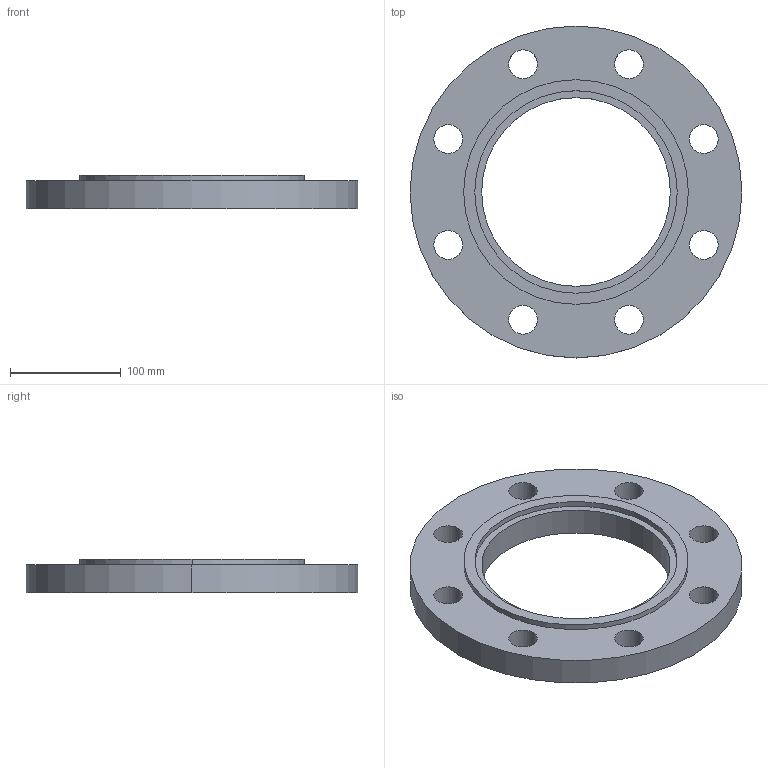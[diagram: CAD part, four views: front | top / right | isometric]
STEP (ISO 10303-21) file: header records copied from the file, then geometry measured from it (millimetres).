
FILE_DESCRIPTION (( 'STEP AP214' ), '1' );
FILE_NAME ('PN40 DN150 Type 01 - Type C Face.STEP', '2019-01-05T00:26:25', ( '' ), ( '' ), 'SwSTEP 2.0', 'SolidWorks 2019', '' );
FILE_SCHEMA (( 'AUTOMOTIVE_DESIGN' ));
Length unit declared in the file: millimetre
Products named in the file (1): PN40 DN150 Type 01 - Type C Face
Bounding box: 300 x 300 x 30 mm (x, y, z)
Volume: 1120483.4 mm3; surface area: 146565.9 mm2
Topology: 1 solids, 1 shells, 28 faces, 72 edges, 48 vertices
Faces by surface type: cylinder 24, plane 4
Entity records: 954 total; most frequent: DIRECTION 178, CARTESIAN_POINT 149, ORIENTED_EDGE 144, AXIS2_PLACEMENT_3D 77, EDGE_CURVE 72, EDGE_LOOP 48, VERTEX_POINT 48, CIRCLE 48
